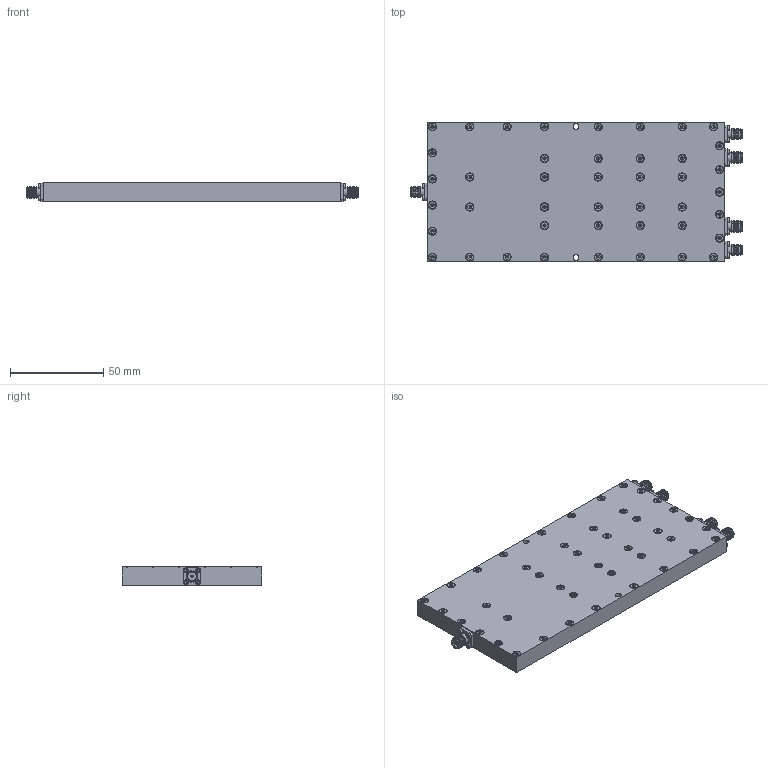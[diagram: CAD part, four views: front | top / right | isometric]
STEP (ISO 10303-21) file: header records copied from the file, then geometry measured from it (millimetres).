
FILE_DESCRIPTION(/* description */ ('Unknown'),/* implementation_level */ '2;1');
FILE_NAME(/* name */ 'DETI_MICROWAVE_2-WAY_POWER_DIVIDER_800038_STEP',/* time_stamp */ '2021-06-30T15:10:33+02:00',/* author */ ('ALG'),/* organization */ ('DETI'),/* preprocessor_version */ 'ST-DEVELOPER v16.7',/* originating_system */ 'Solid Edge',/* authorisation */ 'Unknown');
FILE_SCHEMA (('AUTOMOTIVE_DESIGN {1 0 10303 214 3 1 1}'));
Products named in the file (1): 800038 0A 1601A2
Bounding box: 177.75 x 74.9 x 10 mm (x, y, z)
Volume: 120005.9 mm3; surface area: 33834.2 mm2
Topology: 1 solids, 87 shells, 2098 faces, 5588 edges, 3736 vertices
Faces by surface type: plane 1594, cylinder 268, cone 173, torus 63
Full cylindrical faces by diameter (mm): 1.1 x5, 1.221 x20, 1.27 x10, 1.4 x20, 1.8 x20, 2 x43, 2.2 x43, 2.6 x20, 3.2 x2, 3.8 x43, 4.1 x5, 4.6 x5, 5.3 x10
Entity records: 74088 total; most frequent: CARTESIAN_POINT 10699, DIRECTION 9502, ORIENTED_EDGE 9496, EDGE_CURVE 4748, LINE 3944, VECTOR 3944, VERTEX_POINT 3420, FACE_BOUND 2834
